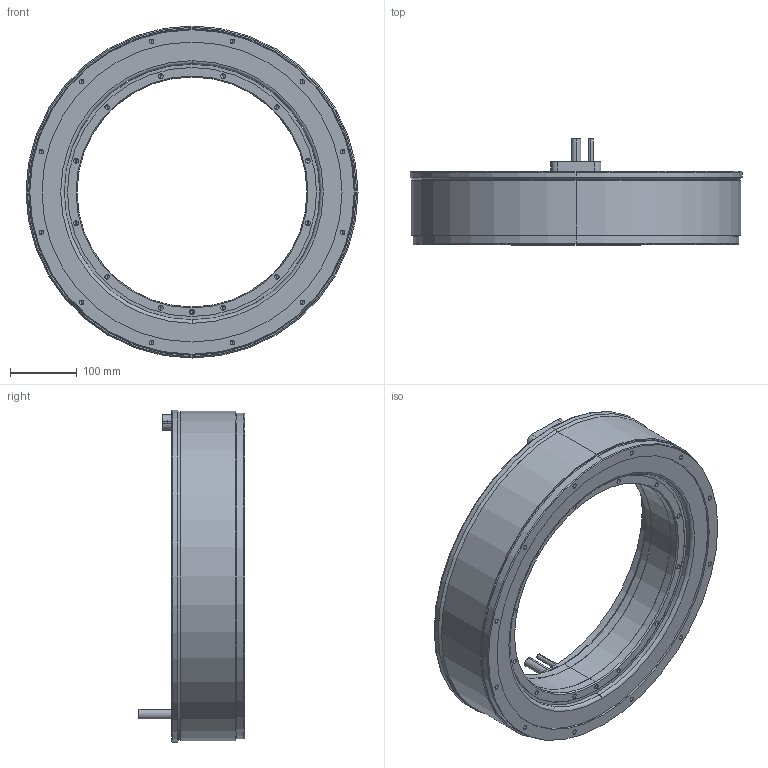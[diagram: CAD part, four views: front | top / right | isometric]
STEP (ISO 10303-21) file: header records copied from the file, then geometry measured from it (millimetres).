
FILE_DESCRIPTION (( 'STEP AP203' ), '1' );
FILE_NAME ('TM-2-D7-SB0(J0).STEP', '2023-06-06T03:19:47', ( '' ), ( '' ), 'SwSTEP 2.0', 'SolidWorks 2015', '' );
FILE_SCHEMA (( 'CONFIG_CONTROL_DESIGN' ));
Length unit declared in the file: millimetre
Products named in the file (3): TM-2-D7(J0)_Rotor; TM-2-D7-SB0(J0)_Stator; TM-2-D7-SB0(J0)
Assembly tree (2 placements, depth 2):
  TM-2-D7-SB0(J0)
    TM-2-D7-SB0(J0)_Stator
    TM-2-D7(J0)_Rotor
Bounding box: 498 x 159 x 498 mm (x, y, z)
Volume: 9647109.8 mm3; surface area: 694627.9 mm2
Topology: 2 solids, 2 shells, 343 faces, 816 edges, 445 vertices
Faces by surface type: cylinder 158, cone 126, plane 51, torus 8
Entity records: 9431 total; most frequent: DIRECTION 1760, CARTESIAN_POINT 1503, ORIENTED_EDGE 1420, EDGE_CURVE 710, AXIS2_PLACEMENT_3D 702, VERTEX_POINT 445, EDGE_LOOP 421, VECTOR 356
